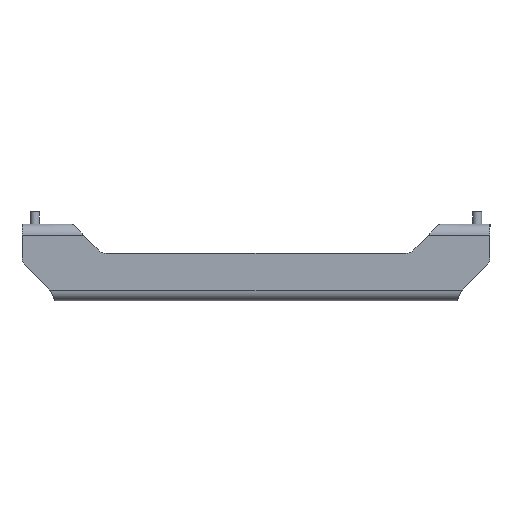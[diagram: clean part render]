
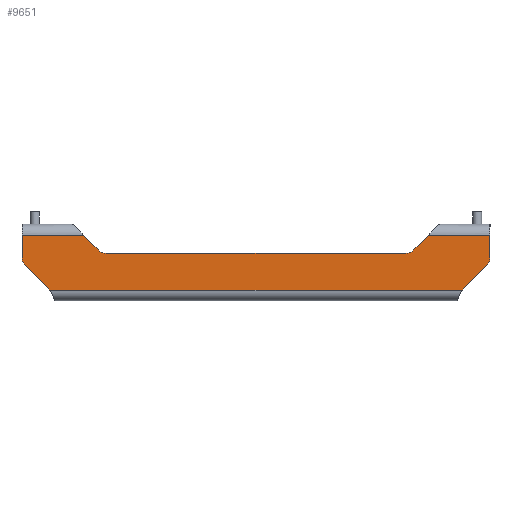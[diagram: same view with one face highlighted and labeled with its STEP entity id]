
A CAD part, front view. The second image highlights one B-rep face of the part: STEP entity #9651.
In plain terms, the highlighted planar face has unit normal (0, -1, 0).
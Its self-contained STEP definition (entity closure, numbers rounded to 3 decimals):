
#109 = EDGE_CURVE ( 'NONE', #365, #21810, #13841, .T. ) ;
#215 = CARTESIAN_POINT ( 'NONE',  ( 128., -83.5, -61. ) ) ;
#323 = CARTESIAN_POINT ( 'NONE',  ( -126.243, -83.5, -47.685 ) ) ;
#365 = VERTEX_POINT ( 'NONE', #21538 ) ;
#651 = CARTESIAN_POINT ( 'NONE',  ( 112.928, -83.5, -61. ) ) ;
#746 = CARTESIAN_POINT ( 'NONE',  ( -84.431, -83.5, -41. ) ) ;
#915 = VERTEX_POINT ( 'NONE', #323 ) ;
#1257 = EDGE_CURVE ( 'NONE', #13089, #15453, #7193, .T. ) ;
#1325 = DIRECTION ( 'NONE',  ( -0.707, 0., -0.707 ) ) ;
#1509 = ORIENTED_EDGE ( 'NONE', *, *, #1257, .T. ) ;
#1796 = CARTESIAN_POINT ( 'NONE',  ( -86.335, -83.5, -39.096 ) ) ;
#1958 = DIRECTION ( 'NONE',  ( 1., 0., 0. ) ) ;
#1962 = ORIENTED_EDGE ( 'NONE', *, *, #7243, .T. ) ;
#2464 = EDGE_CURVE ( 'NONE', #23755, #20405, #11952, .T. ) ;
#3073 = LINE ( 'NONE', #25264, #20474 ) ;
#3574 = EDGE_CURVE ( 'NONE', #14828, #10243, #24666, .T. ) ;
#4107 = VECTOR ( 'NONE', #22668, 1000. ) ;
#4170 = CARTESIAN_POINT ( 'NONE',  ( 0., -83.5, -41. ) ) ;
#4633 = EDGE_CURVE ( 'NONE', #10243, #21810, #3073, .T. ) ;
#4777 = ORIENTED_EDGE ( 'NONE', *, *, #109, .F. ) ;
#5039 = VERTEX_POINT ( 'NONE', #16562 ) ;
#5040 = VECTOR ( 'NONE', #6739, 1000. ) ;
#5046 = ORIENTED_EDGE ( 'NONE', *, *, #24473, .F. ) ;
#5054 = AXIS2_PLACEMENT_3D ( 'NONE', #25243, #13334, #19507 ) ;
#5532 = VECTOR ( 'NONE', #1958, 1000. ) ;
#6008 = CARTESIAN_POINT ( 'NONE',  ( 122., -83.5, -43.443 ) ) ;
#6127 = EDGE_CURVE ( 'NONE', #5039, #915, #8108, .T. ) ;
#6488 = ORIENTED_EDGE ( 'NONE', *, *, #13589, .T. ) ;
#6717 = LINE ( 'NONE', #23180, #19141 ) ;
#6739 = DIRECTION ( 'NONE',  ( -0.707, 0., 0.707 ) ) ;
#6861 = DIRECTION ( 'NONE',  ( 0.707, 0., -0.707 ) ) ;
#7160 = ORIENTED_EDGE ( 'NONE', *, *, #20695, .F. ) ;
#7193 = LINE ( 'NONE', #23518, #20331 ) ;
#7243 = EDGE_CURVE ( 'NONE', #20405, #5039, #12412, .T. ) ;
#7278 = DIRECTION ( 'NONE',  ( 0., 0., -1. ) ) ;
#7777 = CARTESIAN_POINT ( 'NONE',  ( -112.928, -83.5, -61. ) ) ;
#7904 = LINE ( 'NONE', #4170, #21980 ) ;
#7947 = CARTESIAN_POINT ( 'NONE',  ( 0., -83.5, -31. ) ) ;
#8108 = CIRCLE ( 'NONE', #21389, 6. ) ;
#8385 = ORIENTED_EDGE ( 'NONE', *, *, #4633, .T. ) ;
#8541 = CARTESIAN_POINT ( 'NONE',  ( 86.335, -83.5, -39.096 ) ) ;
#9651 = ADVANCED_FACE ( 'NONE', ( #19449 ), #15304, .F. ) ;
#10240 = ORIENTED_EDGE ( 'NONE', *, *, #22022, .F. ) ;
#10243 = VERTEX_POINT ( 'NONE', #651 ) ;
#10274 = DIRECTION ( 'NONE',  ( 0., 0., -1. ) ) ;
#11151 = DIRECTION ( 'NONE',  ( 0., -1., 0. ) ) ;
#11153 = ORIENTED_EDGE ( 'NONE', *, *, #24813, .F. ) ;
#11395 = DIRECTION ( 'NONE',  ( 0., 0., -1. ) ) ;
#11469 = DIRECTION ( 'NONE',  ( 0.707, 0., 0.707 ) ) ;
#11706 = ORIENTED_EDGE ( 'NONE', *, *, #15915, .F. ) ;
#11770 = CARTESIAN_POINT ( 'NONE',  ( 81.739, -83.5, -41. ) ) ;
#11952 = LINE ( 'NONE', #26396, #25077 ) ;
#11996 = VECTOR ( 'NONE', #25130, 1000. ) ;
#12280 = DIRECTION ( 'NONE',  ( 0., -1., 0. ) ) ;
#12314 = CIRCLE ( 'NONE', #5054, 6.5 ) ;
#12412 = LINE ( 'NONE', #16572, #11996 ) ;
#12508 = CARTESIAN_POINT ( 'NONE',  ( 128., -83.5, -31. ) ) ;
#13089 = VERTEX_POINT ( 'NONE', #17455 ) ;
#13278 = CARTESIAN_POINT ( 'NONE',  ( 0., -83.5, 0. ) ) ;
#13285 = LINE ( 'NONE', #25199, #5040 ) ;
#13334 = DIRECTION ( 'NONE',  ( 0., 1., 0. ) ) ;
#13589 = EDGE_CURVE ( 'NONE', #16346, #21666, #7904, .T. ) ;
#13841 = CIRCLE ( 'NONE', #18996, 6. ) ;
#13881 = VECTOR ( 'NONE', #6861, 1000. ) ;
#13963 = VERTEX_POINT ( 'NONE', #12508 ) ;
#14165 = EDGE_LOOP ( 'NONE', ( #11153, #7160, #1509, #5046, #6488, #14189, #11706, #22487, #1962, #19236, #10240, #19494, #8385, #4777 ) ) ;
#14177 = DIRECTION ( 'NONE',  ( 0., 1., 0. ) ) ;
#14189 = ORIENTED_EDGE ( 'NONE', *, *, #19672, .T. ) ;
#14828 = VERTEX_POINT ( 'NONE', #7777 ) ;
#14842 = AXIS2_PLACEMENT_3D ( 'NONE', #25206, #11151, #7278 ) ;
#15304 = PLANE ( 'NONE',  #21061 ) ;
#15453 = VERTEX_POINT ( 'NONE', #8541 ) ;
#15915 = EDGE_CURVE ( 'NONE', #23755, #23339, #19056, .T. ) ;
#16346 = VERTEX_POINT ( 'NONE', #11770 ) ;
#16441 = CARTESIAN_POINT ( 'NONE',  ( -128., -83.5, -31. ) ) ;
#16562 = CARTESIAN_POINT ( 'NONE',  ( -128., -83.5, -43.443 ) ) ;
#16572 = CARTESIAN_POINT ( 'NONE',  ( -128., -83.5, 0. ) ) ;
#17019 = DIRECTION ( 'NONE',  ( 0., 0., -1. ) ) ;
#17455 = CARTESIAN_POINT ( 'NONE',  ( 94.431, -83.5, -31. ) ) ;
#18125 = LINE ( 'NONE', #7947, #5532 ) ;
#18996 = AXIS2_PLACEMENT_3D ( 'NONE', #6008, #14177, #22346 ) ;
#19056 = LINE ( 'NONE', #746, #13881 ) ;
#19141 = VECTOR ( 'NONE', #17019, 1000. ) ;
#19236 = ORIENTED_EDGE ( 'NONE', *, *, #6127, .T. ) ;
#19449 = FACE_OUTER_BOUND ( 'NONE', #14165, .T. ) ;
#19494 = ORIENTED_EDGE ( 'NONE', *, *, #3574, .T. ) ;
#19507 = DIRECTION ( 'NONE',  ( 0., 0., -1. ) ) ;
#19549 = CIRCLE ( 'NONE', #14842, 6.5 ) ;
#19672 = EDGE_CURVE ( 'NONE', #21666, #23339, #12314, .T. ) ;
#19694 = CARTESIAN_POINT ( 'NONE',  ( -94.431, -83.5, -31. ) ) ;
#20331 = VECTOR ( 'NONE', #1325, 1000. ) ;
#20364 = DIRECTION ( 'NONE',  ( -1., 0., 0. ) ) ;
#20405 = VERTEX_POINT ( 'NONE', #16441 ) ;
#20474 = VECTOR ( 'NONE', #11469, 1000. ) ;
#20695 = EDGE_CURVE ( 'NONE', #13089, #13963, #18125, .T. ) ;
#21061 = AXIS2_PLACEMENT_3D ( 'NONE', #13278, #25587, #11395 ) ;
#21389 = AXIS2_PLACEMENT_3D ( 'NONE', #22463, #12280, #10274 ) ;
#21538 = CARTESIAN_POINT ( 'NONE',  ( 128., -83.5, -43.443 ) ) ;
#21666 = VERTEX_POINT ( 'NONE', #24343 ) ;
#21810 = VERTEX_POINT ( 'NONE', #23977 ) ;
#21980 = VECTOR ( 'NONE', #20364, 1000. ) ;
#22022 = EDGE_CURVE ( 'NONE', #14828, #915, #13285, .T. ) ;
#22346 = DIRECTION ( 'NONE',  ( 0., 0., -1. ) ) ;
#22463 = CARTESIAN_POINT ( 'NONE',  ( -122., -83.5, -43.443 ) ) ;
#22487 = ORIENTED_EDGE ( 'NONE', *, *, #2464, .T. ) ;
#22668 = DIRECTION ( 'NONE',  ( 1., 0., 0. ) ) ;
#23180 = CARTESIAN_POINT ( 'NONE',  ( 128., -83.5, 0. ) ) ;
#23339 = VERTEX_POINT ( 'NONE', #1796 ) ;
#23518 = CARTESIAN_POINT ( 'NONE',  ( 84.431, -83.5, -41. ) ) ;
#23755 = VERTEX_POINT ( 'NONE', #19694 ) ;
#23977 = CARTESIAN_POINT ( 'NONE',  ( 126.243, -83.5, -47.685 ) ) ;
#24343 = CARTESIAN_POINT ( 'NONE',  ( -81.739, -83.5, -41. ) ) ;
#24473 = EDGE_CURVE ( 'NONE', #16346, #15453, #19549, .T. ) ;
#24530 = DIRECTION ( 'NONE',  ( -1., 0., 0. ) ) ;
#24666 = LINE ( 'NONE', #215, #4107 ) ;
#24813 = EDGE_CURVE ( 'NONE', #13963, #365, #6717, .T. ) ;
#25077 = VECTOR ( 'NONE', #24530, 1000. ) ;
#25130 = DIRECTION ( 'NONE',  ( 0., 0., -1. ) ) ;
#25199 = CARTESIAN_POINT ( 'NONE',  ( -128., -83.5, -45.928 ) ) ;
#25206 = CARTESIAN_POINT ( 'NONE',  ( 81.739, -83.5, -34.5 ) ) ;
#25243 = CARTESIAN_POINT ( 'NONE',  ( -81.739, -83.5, -34.5 ) ) ;
#25264 = CARTESIAN_POINT ( 'NONE',  ( 128., -83.5, -45.928 ) ) ;
#25587 = DIRECTION ( 'NONE',  ( 0., 1., 0. ) ) ;
#26396 = CARTESIAN_POINT ( 'NONE',  ( 0., -83.5, -31. ) ) ;
